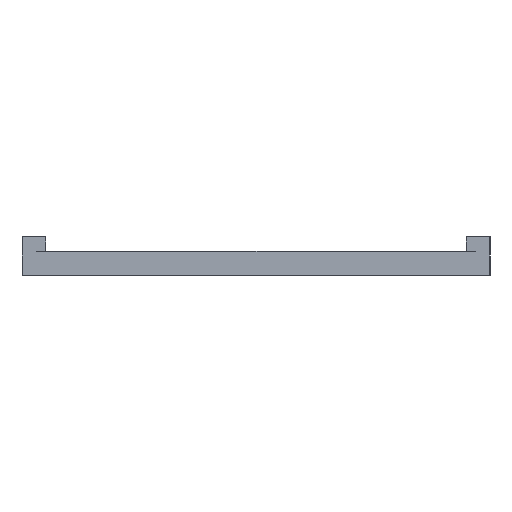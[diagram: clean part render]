
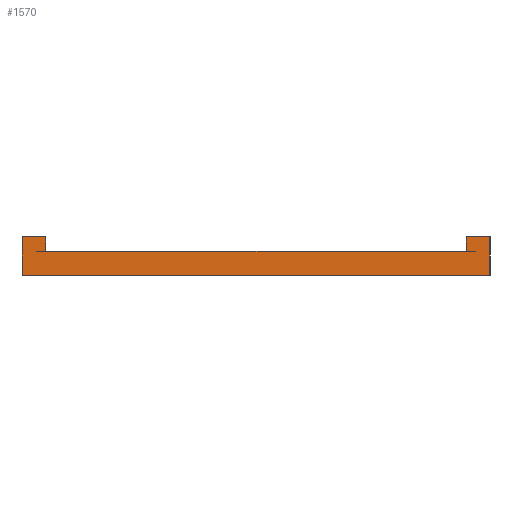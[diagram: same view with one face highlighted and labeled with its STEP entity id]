
A CAD part, left-side view. The second image highlights one B-rep face of the part: STEP entity #1570.
In plain terms, the highlighted planar face has unit normal (-1, 0, 0).
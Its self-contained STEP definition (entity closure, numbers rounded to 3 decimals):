
#22 = VERTEX_POINT('',#23);
#23 = CARTESIAN_POINT('',(-32.6,-24.5,-4.));
#32 = PLANE('',#33);
#33 = AXIS2_PLACEMENT_3D('',#34,#35,#36);
#34 = CARTESIAN_POINT('',(-32.6,-24.5,-4.));
#35 = DIRECTION('',(0.,1.,0.));
#36 = DIRECTION('',(1.,0.,0.));
#44 = PLANE('',#45);
#45 = AXIS2_PLACEMENT_3D('',#46,#47,#48);
#46 = CARTESIAN_POINT('',(0.,0.,-4.));
#47 = DIRECTION('',(0.,0.,1.));
#48 = DIRECTION('',(1.,0.,-0.));
#56 = EDGE_CURVE('',#22,#57,#59,.T.);
#57 = VERTEX_POINT('',#58);
#58 = CARTESIAN_POINT('',(-32.6,-24.5,0.));
#59 = SURFACE_CURVE('',#60,(#64,#71),.PCURVE_S1.);
#60 = LINE('',#61,#62);
#61 = CARTESIAN_POINT('',(-32.6,-24.5,-4.));
#62 = VECTOR('',#63,1.);
#63 = DIRECTION('',(0.,0.,1.));
#64 = PCURVE('',#32,#65);
#65 = DEFINITIONAL_REPRESENTATION('',(#66),#70);
#66 = LINE('',#67,#68);
#67 = CARTESIAN_POINT('',(0.,0.));
#68 = VECTOR('',#69,1.);
#69 = DIRECTION('',(0.,-1.));
#70 = ( GEOMETRIC_REPRESENTATION_CONTEXT(2) 
PARAMETRIC_REPRESENTATION_CONTEXT() REPRESENTATION_CONTEXT('2D SPACE',''
  ) );
#71 = PCURVE('',#72,#77);
#72 = PLANE('',#73);
#73 = AXIS2_PLACEMENT_3D('',#74,#75,#76);
#74 = CARTESIAN_POINT('',(-32.6,24.5,-4.));
#75 = DIRECTION('',(1.,0.,0.));
#76 = DIRECTION('',(0.,-1.,0.));
#77 = DEFINITIONAL_REPRESENTATION('',(#78),#82);
#78 = LINE('',#79,#80);
#79 = CARTESIAN_POINT('',(49.,0.));
#80 = VECTOR('',#81,1.);
#81 = DIRECTION('',(0.,-1.));
#82 = ( GEOMETRIC_REPRESENTATION_CONTEXT(2) 
PARAMETRIC_REPRESENTATION_CONTEXT() REPRESENTATION_CONTEXT('2D SPACE',''
  ) );
#100 = PLANE('',#101);
#101 = AXIS2_PLACEMENT_3D('',#102,#103,#104);
#102 = CARTESIAN_POINT('',(0.,0.,0.));
#103 = DIRECTION('',(0.,0.,1.));
#104 = DIRECTION('',(1.,0.,-0.));
#128 = CYLINDRICAL_SURFACE('',#129,2.5);
#129 = AXIS2_PLACEMENT_3D('',#130,#131,#132);
#130 = CARTESIAN_POINT('',(-30.1,-22.,0.));
#131 = DIRECTION('',(0.,0.,1.));
#132 = DIRECTION('',(1.,0.,-0.));
#156 = PLANE('',#157);
#157 = AXIS2_PLACEMENT_3D('',#158,#159,#160);
#158 = CARTESIAN_POINT('',(0.,0.,-1.5)
  );
#159 = DIRECTION('',(0.,0.,1.));
#160 = DIRECTION('',(1.,0.,-0.));
#278 = VERTEX_POINT('',#279);
#279 = CARTESIAN_POINT('',(-32.6,24.5,-4.));
#293 = PLANE('',#294);
#294 = AXIS2_PLACEMENT_3D('',#295,#296,#297);
#295 = CARTESIAN_POINT('',(32.6,24.5,-4.));
#296 = DIRECTION('',(0.,-1.,0.));
#297 = DIRECTION('',(-1.,0.,0.));
#305 = EDGE_CURVE('',#278,#22,#306,.T.);
#306 = SURFACE_CURVE('',#307,(#311,#318),.PCURVE_S1.);
#307 = LINE('',#308,#309);
#308 = CARTESIAN_POINT('',(-32.6,24.5,-4.));
#309 = VECTOR('',#310,1.);
#310 = DIRECTION('',(0.,-1.,0.));
#311 = PCURVE('',#44,#312);
#312 = DEFINITIONAL_REPRESENTATION('',(#313),#317);
#313 = LINE('',#314,#315);
#314 = CARTESIAN_POINT('',(-32.6,24.5));
#315 = VECTOR('',#316,1.);
#316 = DIRECTION('',(0.,-1.));
#317 = ( GEOMETRIC_REPRESENTATION_CONTEXT(2) 
PARAMETRIC_REPRESENTATION_CONTEXT() REPRESENTATION_CONTEXT('2D SPACE',''
  ) );
#318 = PCURVE('',#72,#319);
#319 = DEFINITIONAL_REPRESENTATION('',(#320),#324);
#320 = LINE('',#321,#322);
#321 = CARTESIAN_POINT('',(0.,0.));
#322 = VECTOR('',#323,1.);
#323 = DIRECTION('',(1.,0.));
#324 = ( GEOMETRIC_REPRESENTATION_CONTEXT(2) 
PARAMETRIC_REPRESENTATION_CONTEXT() REPRESENTATION_CONTEXT('2D SPACE',''
  ) );
#1044 = VERTEX_POINT('',#1045);
#1045 = CARTESIAN_POINT('',(-32.6,22.,-1.5));
#1060 = CYLINDRICAL_SURFACE('',#1061,2.5);
#1061 = AXIS2_PLACEMENT_3D('',#1062,#1063,#1064);
#1062 = CARTESIAN_POINT('',(-30.1,22.,0.));
#1063 = DIRECTION('',(0.,0.,1.));
#1064 = DIRECTION('',(1.,0.,-0.));
#1072 = EDGE_CURVE('',#1044,#1073,#1075,.T.);
#1073 = VERTEX_POINT('',#1074);
#1074 = CARTESIAN_POINT('',(-32.6,-22.,-1.5));
#1075 = SURFACE_CURVE('',#1076,(#1080,#1087),.PCURVE_S1.);
#1076 = LINE('',#1077,#1078);
#1077 = CARTESIAN_POINT('',(-32.6,22.,-1.5));
#1078 = VECTOR('',#1079,1.);
#1079 = DIRECTION('',(0.,-1.,0.));
#1080 = PCURVE('',#156,#1081);
#1081 = DEFINITIONAL_REPRESENTATION('',(#1082),#1086);
#1082 = LINE('',#1083,#1084);
#1083 = CARTESIAN_POINT('',(-32.6,22.));
#1084 = VECTOR('',#1085,1.);
#1085 = DIRECTION('',(0.,-1.));
#1086 = ( GEOMETRIC_REPRESENTATION_CONTEXT(2) 
PARAMETRIC_REPRESENTATION_CONTEXT() REPRESENTATION_CONTEXT('2D SPACE',''
  ) );
#1087 = PCURVE('',#72,#1088);
#1088 = DEFINITIONAL_REPRESENTATION('',(#1089),#1093);
#1089 = LINE('',#1090,#1091);
#1090 = CARTESIAN_POINT('',(2.5,-2.5));
#1091 = VECTOR('',#1092,1.);
#1092 = DIRECTION('',(1.,0.));
#1093 = ( GEOMETRIC_REPRESENTATION_CONTEXT(2) 
PARAMETRIC_REPRESENTATION_CONTEXT() REPRESENTATION_CONTEXT('2D SPACE',''
  ) );
#1498 = EDGE_CURVE('',#1499,#1073,#1501,.T.);
#1499 = VERTEX_POINT('',#1500);
#1500 = CARTESIAN_POINT('',(-32.6,-22.,0.));
#1501 = SURFACE_CURVE('',#1502,(#1506,#1513),.PCURVE_S1.);
#1502 = LINE('',#1503,#1504);
#1503 = CARTESIAN_POINT('',(-32.6,-22.,0.));
#1504 = VECTOR('',#1505,1.);
#1505 = DIRECTION('',(-0.,-0.,-1.));
#1506 = PCURVE('',#128,#1507);
#1507 = DEFINITIONAL_REPRESENTATION('',(#1508),#1512);
#1508 = LINE('',#1509,#1510);
#1509 = CARTESIAN_POINT('',(3.142,0.));
#1510 = VECTOR('',#1511,1.);
#1511 = DIRECTION('',(0.,-1.));
#1512 = ( GEOMETRIC_REPRESENTATION_CONTEXT(2) 
PARAMETRIC_REPRESENTATION_CONTEXT() REPRESENTATION_CONTEXT('2D SPACE',''
  ) );
#1513 = PCURVE('',#72,#1514);
#1514 = DEFINITIONAL_REPRESENTATION('',(#1515),#1519);
#1515 = LINE('',#1516,#1517);
#1516 = CARTESIAN_POINT('',(46.5,-4.));
#1517 = VECTOR('',#1518,1.);
#1518 = DIRECTION('',(0.,1.));
#1519 = ( GEOMETRIC_REPRESENTATION_CONTEXT(2) 
PARAMETRIC_REPRESENTATION_CONTEXT() REPRESENTATION_CONTEXT('2D SPACE',''
  ) );
#1548 = EDGE_CURVE('',#1499,#57,#1549,.T.);
#1549 = SURFACE_CURVE('',#1550,(#1554,#1561),.PCURVE_S1.);
#1550 = LINE('',#1551,#1552);
#1551 = CARTESIAN_POINT('',(-32.6,24.5,0.));
#1552 = VECTOR('',#1553,1.);
#1553 = DIRECTION('',(0.,-1.,0.));
#1554 = PCURVE('',#100,#1555);
#1555 = DEFINITIONAL_REPRESENTATION('',(#1556),#1560);
#1556 = LINE('',#1557,#1558);
#1557 = CARTESIAN_POINT('',(-32.6,24.5));
#1558 = VECTOR('',#1559,1.);
#1559 = DIRECTION('',(0.,-1.));
#1560 = ( GEOMETRIC_REPRESENTATION_CONTEXT(2) 
PARAMETRIC_REPRESENTATION_CONTEXT() REPRESENTATION_CONTEXT('2D SPACE',''
  ) );
#1561 = PCURVE('',#72,#1562);
#1562 = DEFINITIONAL_REPRESENTATION('',(#1563),#1567);
#1563 = LINE('',#1564,#1565);
#1564 = CARTESIAN_POINT('',(0.,-4.));
#1565 = VECTOR('',#1566,1.);
#1566 = DIRECTION('',(1.,0.));
#1567 = ( GEOMETRIC_REPRESENTATION_CONTEXT(2) 
PARAMETRIC_REPRESENTATION_CONTEXT() REPRESENTATION_CONTEXT('2D SPACE',''
  ) );
#1570 = ADVANCED_FACE('',(#1571),#72,.F.);
#1571 = FACE_BOUND('',#1572,.F.);
#1572 = EDGE_LOOP('',(#1573,#1574,#1597,#1625,#1646,#1647,#1648,#1649));
#1573 = ORIENTED_EDGE('',*,*,#305,.F.);
#1574 = ORIENTED_EDGE('',*,*,#1575,.T.);
#1575 = EDGE_CURVE('',#278,#1576,#1578,.T.);
#1576 = VERTEX_POINT('',#1577);
#1577 = CARTESIAN_POINT('',(-32.6,24.5,0.));
#1578 = SURFACE_CURVE('',#1579,(#1583,#1590),.PCURVE_S1.);
#1579 = LINE('',#1580,#1581);
#1580 = CARTESIAN_POINT('',(-32.6,24.5,-4.));
#1581 = VECTOR('',#1582,1.);
#1582 = DIRECTION('',(0.,0.,1.));
#1583 = PCURVE('',#72,#1584);
#1584 = DEFINITIONAL_REPRESENTATION('',(#1585),#1589);
#1585 = LINE('',#1586,#1587);
#1586 = CARTESIAN_POINT('',(0.,0.));
#1587 = VECTOR('',#1588,1.);
#1588 = DIRECTION('',(0.,-1.));
#1589 = ( GEOMETRIC_REPRESENTATION_CONTEXT(2) 
PARAMETRIC_REPRESENTATION_CONTEXT() REPRESENTATION_CONTEXT('2D SPACE',''
  ) );
#1590 = PCURVE('',#293,#1591);
#1591 = DEFINITIONAL_REPRESENTATION('',(#1592),#1596);
#1592 = LINE('',#1593,#1594);
#1593 = CARTESIAN_POINT('',(65.2,0.));
#1594 = VECTOR('',#1595,1.);
#1595 = DIRECTION('',(0.,-1.));
#1596 = ( GEOMETRIC_REPRESENTATION_CONTEXT(2) 
PARAMETRIC_REPRESENTATION_CONTEXT() REPRESENTATION_CONTEXT('2D SPACE',''
  ) );
#1597 = ORIENTED_EDGE('',*,*,#1598,.T.);
#1598 = EDGE_CURVE('',#1576,#1599,#1601,.T.);
#1599 = VERTEX_POINT('',#1600);
#1600 = CARTESIAN_POINT('',(-32.6,22.,0.));
#1601 = SURFACE_CURVE('',#1602,(#1606,#1613),.PCURVE_S1.);
#1602 = LINE('',#1603,#1604);
#1603 = CARTESIAN_POINT('',(-32.6,24.5,0.));
#1604 = VECTOR('',#1605,1.);
#1605 = DIRECTION('',(0.,-1.,0.));
#1606 = PCURVE('',#72,#1607);
#1607 = DEFINITIONAL_REPRESENTATION('',(#1608),#1612);
#1608 = LINE('',#1609,#1610);
#1609 = CARTESIAN_POINT('',(0.,-4.));
#1610 = VECTOR('',#1611,1.);
#1611 = DIRECTION('',(1.,0.));
#1612 = ( GEOMETRIC_REPRESENTATION_CONTEXT(2) 
PARAMETRIC_REPRESENTATION_CONTEXT() REPRESENTATION_CONTEXT('2D SPACE',''
  ) );
#1613 = PCURVE('',#1614,#1619);
#1614 = PLANE('',#1615);
#1615 = AXIS2_PLACEMENT_3D('',#1616,#1617,#1618);
#1616 = CARTESIAN_POINT('',(0.,0.,0.));
#1617 = DIRECTION('',(0.,0.,1.));
#1618 = DIRECTION('',(1.,0.,-0.));
#1619 = DEFINITIONAL_REPRESENTATION('',(#1620),#1624);
#1620 = LINE('',#1621,#1622);
#1621 = CARTESIAN_POINT('',(-32.6,24.5));
#1622 = VECTOR('',#1623,1.);
#1623 = DIRECTION('',(0.,-1.));
#1624 = ( GEOMETRIC_REPRESENTATION_CONTEXT(2) 
PARAMETRIC_REPRESENTATION_CONTEXT() REPRESENTATION_CONTEXT('2D SPACE',''
  ) );
#1625 = ORIENTED_EDGE('',*,*,#1626,.T.);
#1626 = EDGE_CURVE('',#1599,#1044,#1627,.T.);
#1627 = SURFACE_CURVE('',#1628,(#1632,#1639),.PCURVE_S1.);
#1628 = LINE('',#1629,#1630);
#1629 = CARTESIAN_POINT('',(-32.6,22.,0.));
#1630 = VECTOR('',#1631,1.);
#1631 = DIRECTION('',(-0.,-0.,-1.));
#1632 = PCURVE('',#72,#1633);
#1633 = DEFINITIONAL_REPRESENTATION('',(#1634),#1638);
#1634 = LINE('',#1635,#1636);
#1635 = CARTESIAN_POINT('',(2.5,-4.));
#1636 = VECTOR('',#1637,1.);
#1637 = DIRECTION('',(0.,1.));
#1638 = ( GEOMETRIC_REPRESENTATION_CONTEXT(2) 
PARAMETRIC_REPRESENTATION_CONTEXT() REPRESENTATION_CONTEXT('2D SPACE',''
  ) );
#1639 = PCURVE('',#1060,#1640);
#1640 = DEFINITIONAL_REPRESENTATION('',(#1641),#1645);
#1641 = LINE('',#1642,#1643);
#1642 = CARTESIAN_POINT('',(3.142,0.));
#1643 = VECTOR('',#1644,1.);
#1644 = DIRECTION('',(0.,-1.));
#1645 = ( GEOMETRIC_REPRESENTATION_CONTEXT(2) 
PARAMETRIC_REPRESENTATION_CONTEXT() REPRESENTATION_CONTEXT('2D SPACE',''
  ) );
#1646 = ORIENTED_EDGE('',*,*,#1072,.T.);
#1647 = ORIENTED_EDGE('',*,*,#1498,.F.);
#1648 = ORIENTED_EDGE('',*,*,#1548,.T.);
#1649 = ORIENTED_EDGE('',*,*,#56,.F.);
